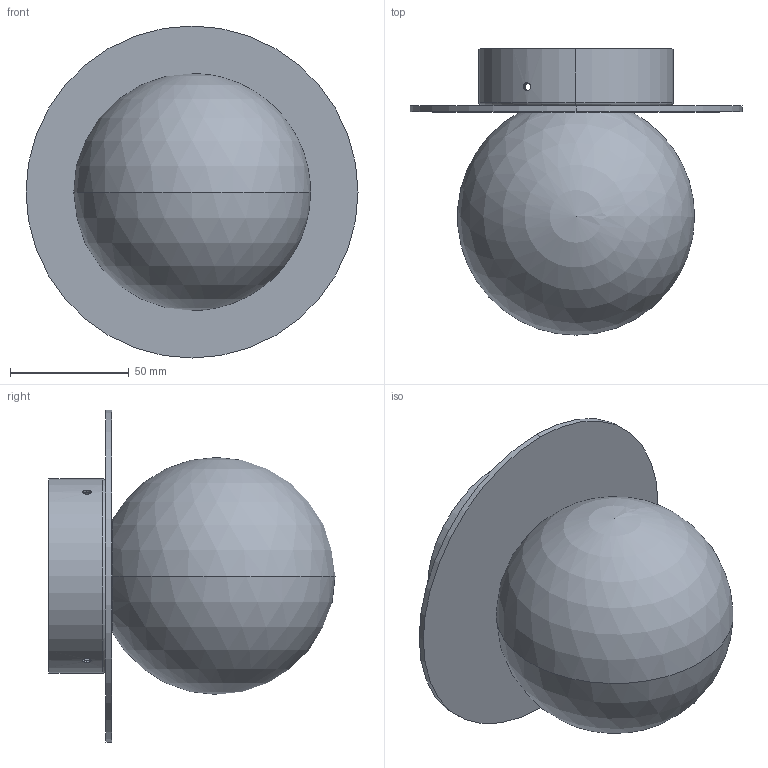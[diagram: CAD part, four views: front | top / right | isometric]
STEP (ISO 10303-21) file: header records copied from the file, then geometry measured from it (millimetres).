
FILE_DESCRIPTION (( 'STEP AP203' ), '1' );
FILE_NAME ('PLKI1001XXXXXXX-PER 3D.STEP', '2025-06-25T07:26:38', ( '' ), ( '' ), 'SwSTEP 2.0', 'SolidWorks 2024', '' );
FILE_SCHEMA (( 'CONFIG_CONTROL_DESIGN' ));
Length unit declared in the file: millimetre
Products named in the file (4): WSCM2F0029-0100-01; WSCM2C0201-0700-02_WSCM2C0201-0700-02; WSVAXXX0100BC7XX00; PLKI1001XXXXXXX-PER 3D
Assembly tree (3 placements, depth 2):
  PLKI1001XXXXXXX-PER 3D
    WSCM2C0201-0700-02_WSCM2C0201-0700-02
    WSVAXXX0100BC7XX00
    WSCM2F0029-0100-01
Bounding box: 140 x 120.66 x 140 mm (x, y, z)
Volume: 158845 mm3; surface area: 109289 mm2
Topology: 3 solids, 3 shells, 69 faces, 181 edges, 116 vertices
Faces by surface type: cylinder 37, plane 16, cone 8, sphere 4, torus 4
Entity records: 2823 total; most frequent: CARTESIAN_POINT 668, DIRECTION 393, ORIENTED_EDGE 342, EDGE_CURVE 171, AXIS2_PLACEMENT_3D 159, VERTEX_POINT 110, EDGE_LOOP 95, CIRCLE 84
